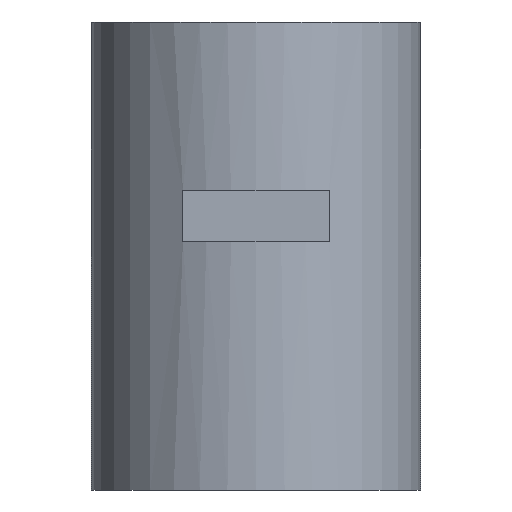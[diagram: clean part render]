
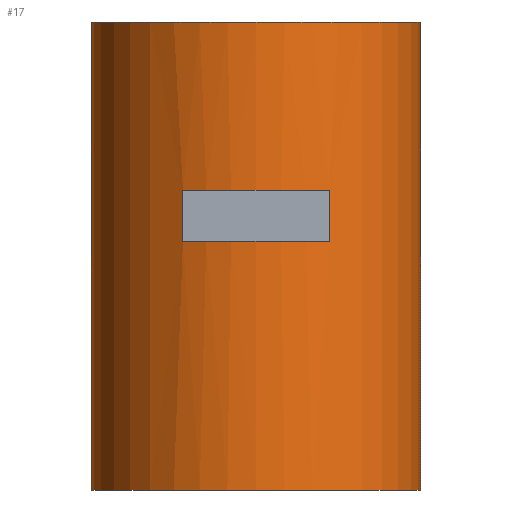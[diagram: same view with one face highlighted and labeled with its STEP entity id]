
A CAD part, left-side view. The second image highlights one B-rep face of the part: STEP entity #17.
In plain terms, the highlighted cylindrical face has radius 2.25 mm (diameter 4.5 mm), a full revolution.
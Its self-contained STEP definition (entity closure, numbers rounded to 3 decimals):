
#17 = ADVANCED_FACE('',(#18,#105),#32,.T.);
#18 = FACE_BOUND('',#19,.T.);
#19 = EDGE_LOOP('',(#20,#50,#77,#78));
#20 = ORIENTED_EDGE('',*,*,#21,.T.);
#21 = EDGE_CURVE('',#22,#24,#26,.T.);
#22 = VERTEX_POINT('',#23);
#23 = CARTESIAN_POINT('',(53.25,22.5,0.));
#24 = VERTEX_POINT('',#25);
#25 = CARTESIAN_POINT('',(53.25,22.5,6.4));
#26 = SEAM_CURVE('',#27,(#31,#43),.PCURVE_S1.);
#27 = LINE('',#28,#29);
#28 = CARTESIAN_POINT('',(53.25,22.5,0.));
#29 = VECTOR('',#30,1.);
#30 = DIRECTION('',(0.,0.,1.));
#31 = PCURVE('',#32,#37);
#32 = CYLINDRICAL_SURFACE('',#33,2.25);
#33 = AXIS2_PLACEMENT_3D('',#34,#35,#36);
#34 = CARTESIAN_POINT('',(51.,22.5,0.));
#35 = DIRECTION('',(0.,0.,1.));
#36 = DIRECTION('',(1.,0.,0.));
#37 = DEFINITIONAL_REPRESENTATION('',(#38),#42);
#38 = LINE('',#39,#40);
#39 = CARTESIAN_POINT('',(6.283,-0.));
#40 = VECTOR('',#41,1.);
#41 = DIRECTION('',(0.,1.));
#42 = ( GEOMETRIC_REPRESENTATION_CONTEXT(2) 
PARAMETRIC_REPRESENTATION_CONTEXT() REPRESENTATION_CONTEXT('2D SPACE',''
  ) );
#43 = PCURVE('',#32,#44);
#44 = DEFINITIONAL_REPRESENTATION('',(#45),#49);
#45 = LINE('',#46,#47);
#46 = CARTESIAN_POINT('',(0.,-0.));
#47 = VECTOR('',#48,1.);
#48 = DIRECTION('',(0.,1.));
#49 = ( GEOMETRIC_REPRESENTATION_CONTEXT(2) 
PARAMETRIC_REPRESENTATION_CONTEXT() REPRESENTATION_CONTEXT('2D SPACE',''
  ) );
#50 = ORIENTED_EDGE('',*,*,#51,.F.);
#51 = EDGE_CURVE('',#24,#24,#52,.T.);
#52 = SURFACE_CURVE('',#53,(#58,#65),.PCURVE_S1.);
#53 = CIRCLE('',#54,2.25);
#54 = AXIS2_PLACEMENT_3D('',#55,#56,#57);
#55 = CARTESIAN_POINT('',(51.,22.5,6.4));
#56 = DIRECTION('',(0.,0.,1.));
#57 = DIRECTION('',(1.,0.,0.));
#58 = PCURVE('',#32,#59);
#59 = DEFINITIONAL_REPRESENTATION('',(#60),#64);
#60 = LINE('',#61,#62);
#61 = CARTESIAN_POINT('',(0.,6.4));
#62 = VECTOR('',#63,1.);
#63 = DIRECTION('',(1.,0.));
#64 = ( GEOMETRIC_REPRESENTATION_CONTEXT(2) 
PARAMETRIC_REPRESENTATION_CONTEXT() REPRESENTATION_CONTEXT('2D SPACE',''
  ) );
#65 = PCURVE('',#66,#71);
#66 = PLANE('',#67);
#67 = AXIS2_PLACEMENT_3D('',#68,#69,#70);
#68 = CARTESIAN_POINT('',(51.,22.5,6.4));
#69 = DIRECTION('',(0.,0.,1.));
#70 = DIRECTION('',(1.,0.,0.));
#71 = DEFINITIONAL_REPRESENTATION('',(#72),#76);
#72 = CIRCLE('',#73,2.25);
#73 = AXIS2_PLACEMENT_2D('',#74,#75);
#74 = CARTESIAN_POINT('',(0.,0.));
#75 = DIRECTION('',(1.,0.));
#76 = ( GEOMETRIC_REPRESENTATION_CONTEXT(2) 
PARAMETRIC_REPRESENTATION_CONTEXT() REPRESENTATION_CONTEXT('2D SPACE',''
  ) );
#77 = ORIENTED_EDGE('',*,*,#21,.F.);
#78 = ORIENTED_EDGE('',*,*,#79,.T.);
#79 = EDGE_CURVE('',#22,#22,#80,.T.);
#80 = SURFACE_CURVE('',#81,(#86,#93),.PCURVE_S1.);
#81 = CIRCLE('',#82,2.25);
#82 = AXIS2_PLACEMENT_3D('',#83,#84,#85);
#83 = CARTESIAN_POINT('',(51.,22.5,0.));
#84 = DIRECTION('',(0.,0.,1.));
#85 = DIRECTION('',(1.,0.,0.));
#86 = PCURVE('',#32,#87);
#87 = DEFINITIONAL_REPRESENTATION('',(#88),#92);
#88 = LINE('',#89,#90);
#89 = CARTESIAN_POINT('',(0.,0.));
#90 = VECTOR('',#91,1.);
#91 = DIRECTION('',(1.,0.));
#92 = ( GEOMETRIC_REPRESENTATION_CONTEXT(2) 
PARAMETRIC_REPRESENTATION_CONTEXT() REPRESENTATION_CONTEXT('2D SPACE',''
  ) );
#93 = PCURVE('',#94,#99);
#94 = PLANE('',#95);
#95 = AXIS2_PLACEMENT_3D('',#96,#97,#98);
#96 = CARTESIAN_POINT('',(51.,22.5,0.));
#97 = DIRECTION('',(0.,0.,1.));
#98 = DIRECTION('',(1.,0.,0.));
#99 = DEFINITIONAL_REPRESENTATION('',(#100),#104);
#100 = CIRCLE('',#101,2.25);
#101 = AXIS2_PLACEMENT_2D('',#102,#103);
#102 = CARTESIAN_POINT('',(0.,0.));
#103 = DIRECTION('',(1.,0.));
#104 = ( GEOMETRIC_REPRESENTATION_CONTEXT(2) 
PARAMETRIC_REPRESENTATION_CONTEXT() REPRESENTATION_CONTEXT('2D SPACE',''
  ) );
#105 = FACE_BOUND('',#106,.T.);
#106 = EDGE_LOOP('',(#107,#135,#164,#190));
#107 = ORIENTED_EDGE('',*,*,#108,.F.);
#108 = EDGE_CURVE('',#109,#111,#113,.T.);
#109 = VERTEX_POINT('',#110);
#110 = CARTESIAN_POINT('',(48.984,21.5,3.4));
#111 = VERTEX_POINT('',#112);
#112 = CARTESIAN_POINT('',(48.984,21.5,4.1));
#113 = SURFACE_CURVE('',#114,(#118,#124),.PCURVE_S1.);
#114 = LINE('',#115,#116);
#115 = CARTESIAN_POINT('',(48.984,21.5,0.));
#116 = VECTOR('',#117,1.);
#117 = DIRECTION('',(0.,0.,1.));
#118 = PCURVE('',#32,#119);
#119 = DEFINITIONAL_REPRESENTATION('',(#120),#123);
#120 = B_SPLINE_CURVE_WITH_KNOTS('',1,(#121,#122),.UNSPECIFIED.,.F.,.F.,
  (2,2),(3.33,4.17),.PIECEWISE_BEZIER_KNOTS.);
#121 = CARTESIAN_POINT('',(3.602,3.33));
#122 = CARTESIAN_POINT('',(3.602,4.17));
#123 = ( GEOMETRIC_REPRESENTATION_CONTEXT(2) 
PARAMETRIC_REPRESENTATION_CONTEXT() REPRESENTATION_CONTEXT('2D SPACE',''
  ) );
#124 = PCURVE('',#125,#130);
#125 = PLANE('',#126);
#126 = AXIS2_PLACEMENT_3D('',#127,#128,#129);
#127 = CARTESIAN_POINT('',(45.8,21.5,3.4));
#128 = DIRECTION('',(0.,1.,0.));
#129 = DIRECTION('',(0.,0.,1.));
#130 = DEFINITIONAL_REPRESENTATION('',(#131),#134);
#131 = B_SPLINE_CURVE_WITH_KNOTS('',1,(#132,#133),.UNSPECIFIED.,.F.,.F.,
  (2,2),(3.33,4.17),.PIECEWISE_BEZIER_KNOTS.);
#132 = CARTESIAN_POINT('',(-0.07,3.184));
#133 = CARTESIAN_POINT('',(0.77,3.184));
#134 = ( GEOMETRIC_REPRESENTATION_CONTEXT(2) 
PARAMETRIC_REPRESENTATION_CONTEXT() REPRESENTATION_CONTEXT('2D SPACE',''
  ) );
#135 = ORIENTED_EDGE('',*,*,#136,.F.);
#136 = EDGE_CURVE('',#137,#109,#139,.T.);
#137 = VERTEX_POINT('',#138);
#138 = CARTESIAN_POINT('',(48.984,23.5,3.4));
#139 = SURFACE_CURVE('',#140,(#145,#152),.PCURVE_S1.);
#140 = CIRCLE('',#141,2.25);
#141 = AXIS2_PLACEMENT_3D('',#142,#143,#144);
#142 = CARTESIAN_POINT('',(51.,22.5,3.4));
#143 = DIRECTION('',(0.,0.,1.));
#144 = DIRECTION('',(1.,0.,-0.));
#145 = PCURVE('',#32,#146);
#146 = DEFINITIONAL_REPRESENTATION('',(#147),#151);
#147 = LINE('',#148,#149);
#148 = CARTESIAN_POINT('',(0.,3.4));
#149 = VECTOR('',#150,1.);
#150 = DIRECTION('',(1.,0.));
#151 = ( GEOMETRIC_REPRESENTATION_CONTEXT(2) 
PARAMETRIC_REPRESENTATION_CONTEXT() REPRESENTATION_CONTEXT('2D SPACE',''
  ) );
#152 = PCURVE('',#153,#158);
#153 = PLANE('',#154);
#154 = AXIS2_PLACEMENT_3D('',#155,#156,#157);
#155 = CARTESIAN_POINT('',(45.8,21.5,3.4));
#156 = DIRECTION('',(0.,0.,1.));
#157 = DIRECTION('',(1.,0.,0.));
#158 = DEFINITIONAL_REPRESENTATION('',(#159),#163);
#159 = CIRCLE('',#160,2.25);
#160 = AXIS2_PLACEMENT_2D('',#161,#162);
#161 = CARTESIAN_POINT('',(5.2,1.));
#162 = DIRECTION('',(1.,0.));
#163 = ( GEOMETRIC_REPRESENTATION_CONTEXT(2) 
PARAMETRIC_REPRESENTATION_CONTEXT() REPRESENTATION_CONTEXT('2D SPACE',''
  ) );
#164 = ORIENTED_EDGE('',*,*,#165,.T.);
#165 = EDGE_CURVE('',#137,#166,#168,.T.);
#166 = VERTEX_POINT('',#167);
#167 = CARTESIAN_POINT('',(48.984,23.5,4.1));
#168 = SURFACE_CURVE('',#169,(#173,#179),.PCURVE_S1.);
#169 = LINE('',#170,#171);
#170 = CARTESIAN_POINT('',(48.984,23.5,0.));
#171 = VECTOR('',#172,1.);
#172 = DIRECTION('',(0.,0.,1.));
#173 = PCURVE('',#32,#174);
#174 = DEFINITIONAL_REPRESENTATION('',(#175),#178);
#175 = B_SPLINE_CURVE_WITH_KNOTS('',1,(#176,#177),.UNSPECIFIED.,.F.,.F.,
  (2,2),(3.33,4.17),.PIECEWISE_BEZIER_KNOTS.);
#176 = CARTESIAN_POINT('',(2.681,3.33));
#177 = CARTESIAN_POINT('',(2.681,4.17));
#178 = ( GEOMETRIC_REPRESENTATION_CONTEXT(2) 
PARAMETRIC_REPRESENTATION_CONTEXT() REPRESENTATION_CONTEXT('2D SPACE',''
  ) );
#179 = PCURVE('',#180,#185);
#180 = PLANE('',#181);
#181 = AXIS2_PLACEMENT_3D('',#182,#183,#184);
#182 = CARTESIAN_POINT('',(45.8,23.5,3.4));
#183 = DIRECTION('',(0.,1.,0.));
#184 = DIRECTION('',(0.,0.,1.));
#185 = DEFINITIONAL_REPRESENTATION('',(#186),#189);
#186 = B_SPLINE_CURVE_WITH_KNOTS('',1,(#187,#188),.UNSPECIFIED.,.F.,.F.,
  (2,2),(3.33,4.17),.PIECEWISE_BEZIER_KNOTS.);
#187 = CARTESIAN_POINT('',(-0.07,3.184));
#188 = CARTESIAN_POINT('',(0.77,3.184));
#189 = ( GEOMETRIC_REPRESENTATION_CONTEXT(2) 
PARAMETRIC_REPRESENTATION_CONTEXT() REPRESENTATION_CONTEXT('2D SPACE',''
  ) );
#190 = ORIENTED_EDGE('',*,*,#191,.T.);
#191 = EDGE_CURVE('',#166,#111,#192,.T.);
#192 = SURFACE_CURVE('',#193,(#198,#205),.PCURVE_S1.);
#193 = CIRCLE('',#194,2.25);
#194 = AXIS2_PLACEMENT_3D('',#195,#196,#197);
#195 = CARTESIAN_POINT('',(51.,22.5,4.1));
#196 = DIRECTION('',(0.,0.,1.));
#197 = DIRECTION('',(1.,0.,-0.));
#198 = PCURVE('',#32,#199);
#199 = DEFINITIONAL_REPRESENTATION('',(#200),#204);
#200 = LINE('',#201,#202);
#201 = CARTESIAN_POINT('',(0.,4.1));
#202 = VECTOR('',#203,1.);
#203 = DIRECTION('',(1.,0.));
#204 = ( GEOMETRIC_REPRESENTATION_CONTEXT(2) 
PARAMETRIC_REPRESENTATION_CONTEXT() REPRESENTATION_CONTEXT('2D SPACE',''
  ) );
#205 = PCURVE('',#206,#211);
#206 = PLANE('',#207);
#207 = AXIS2_PLACEMENT_3D('',#208,#209,#210);
#208 = CARTESIAN_POINT('',(45.8,21.5,4.1));
#209 = DIRECTION('',(0.,0.,1.));
#210 = DIRECTION('',(1.,0.,0.));
#211 = DEFINITIONAL_REPRESENTATION('',(#212),#216);
#212 = CIRCLE('',#213,2.25);
#213 = AXIS2_PLACEMENT_2D('',#214,#215);
#214 = CARTESIAN_POINT('',(5.2,1.));
#215 = DIRECTION('',(1.,0.));
#216 = ( GEOMETRIC_REPRESENTATION_CONTEXT(2) 
PARAMETRIC_REPRESENTATION_CONTEXT() REPRESENTATION_CONTEXT('2D SPACE',''
  ) );
